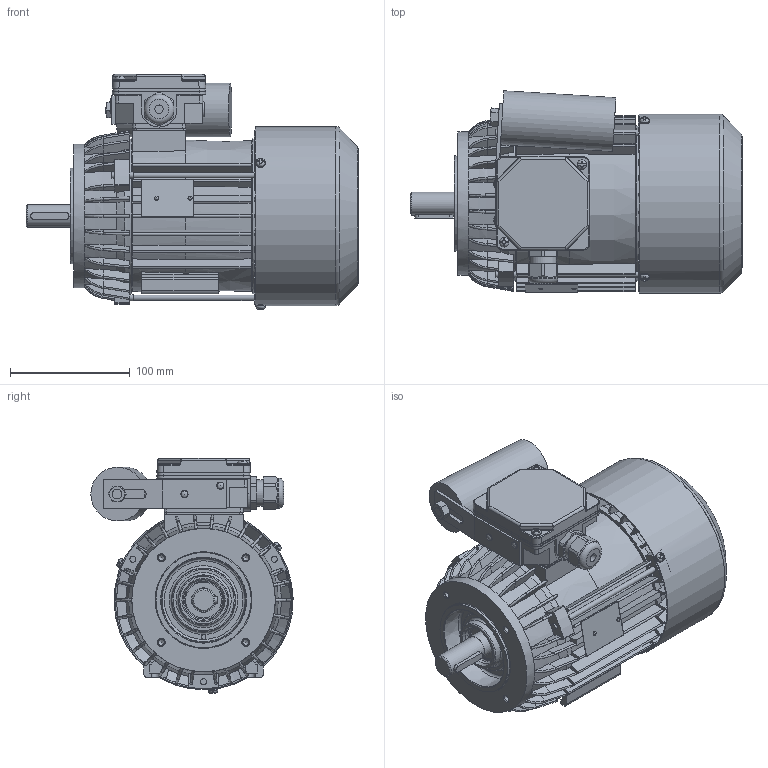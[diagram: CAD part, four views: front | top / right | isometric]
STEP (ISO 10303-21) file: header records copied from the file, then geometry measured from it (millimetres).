
FILE_DESCRIPTION(/* description */ ('Unknown'),/* implementation_level */ '2;1');
FILE_NAME(/* name */ '3SSIEK80-4A2',/* time_stamp */ '2024-06-18T07:09:14+02:00',/* author */ ('Unknown'),/* organization */ ('Unknown'),/* preprocessor_version */ 'ST-DEVELOPER v16.7',/* originating_system */ 'Solid Edge',/* authorisation */ 'Unknown');
FILE_SCHEMA (('AUTOMOTIVE_DESIGN {1 0 10303 214 3 1 1}'));
Products named in the file (1): Czêœæ6
Bounding box: 277.78 x 169.24 x 196.68 mm (x, y, z)
Volume: 959477.7 mm3; surface area: 513626.5 mm2
Topology: 3 solids, 3 shells, 2644 faces, 7598 edges, 4948 vertices
Faces by surface type: plane 1258, cylinder 774, bspline 244, torus 191, cone 155, sphere 22
Full cylindrical faces by diameter (mm): 2 x2, 2.4 x2, 3 x1, 3.7 x8, 4 x7, 4.3 x2, 4.5 x3, 4.6 x3, 4.8 x2, 5 x12, 5.5 x3, 6 x2, 6.5 x1, 7 x1, 8 x10, 18.998 x1, 19.298 x1, 19.498 x1, 20.298 x2, 20.398 x2, 20.4 x2, 22.3 x1, 25 x1, 25.497 x1, 25.997 x2, 26.097 x1, 26.997 x1, 28.799 x4, 30 x1, 34 x1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
Entity records: 110995 total; most frequent: CARTESIAN_POINT 27916, ORIENTED_EDGE 14384, DIRECTION 12850, EDGE_CURVE 7192, VERTEX_POINT 4781, AXIS2_PLACEMENT_3D 4734, LINE 3382, VECTOR 3382
